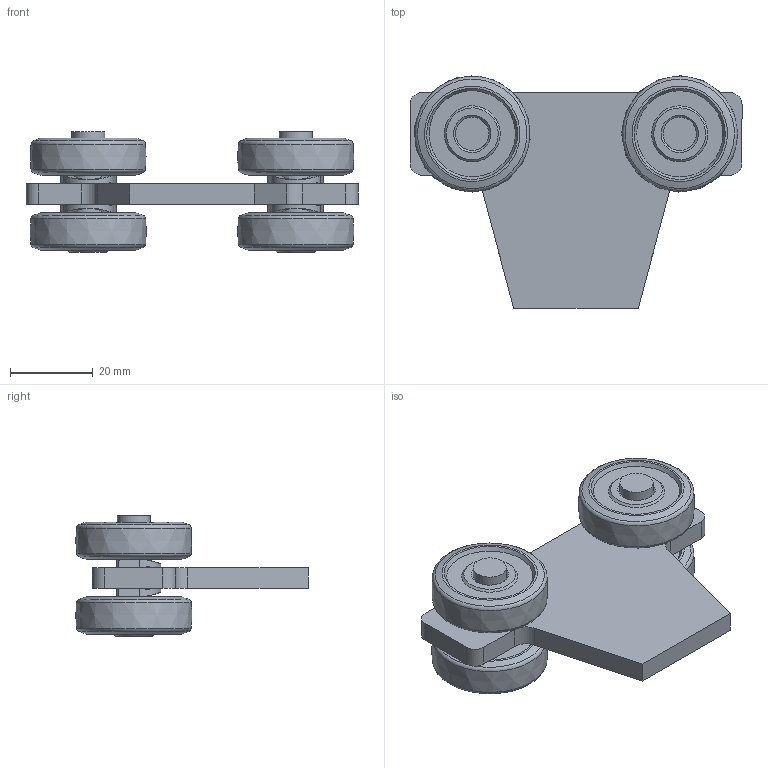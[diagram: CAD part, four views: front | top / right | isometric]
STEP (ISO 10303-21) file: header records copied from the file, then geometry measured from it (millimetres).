
FILE_DESCRIPTION(/* description */ ('Brennteil'),/* implementation_level */ '2;1');
FILE_NAME(/* name */ 'Q:\sge-ma\Produktmanagement-STB\STB\Workspace\stp\010336845.stp',/* time_stamp */ '2016-07-14T12:57:07+02:00',/* author */ ('avschreier'),/* organization */ (''),/* preprocessor_version */ 'ST-DEVELOPER v16.1',/* originating_system */ 'Autodesk Inventor 2016',/* authorisation */ '');
FILE_SCHEMA (('AUTOMOTIVE_DESIGN { 1 0 10303 214 3 1 1 }'));
Length unit declared in the file: millimetre
Products named in the file (5): 000302050; 000303235; 336290010; 000304011; 010336845
Assembly tree (11 placements, depth 2):
  010336845
    000302050
    000303235  x4
    336290010  x4
    000304011  x2
Bounding box: 80 x 56 x 29 mm (x, y, z)
Volume: 34030.3 mm3; surface area: 17705.5 mm2
Topology: 11 solids, 11 shells, 262 faces, 622 edges, 400 vertices
Faces by surface type: plane 156, cylinder 34, cone 34, bspline 28, torus 10
Full cylindrical faces by diameter (mm): 8 x6, 10 x2
Entity records: 3373 total; most frequent: CARTESIAN_POINT 1218, DIRECTION 444, ORIENTED_EDGE 390, EDGE_CURVE 195, AXIS2_PLACEMENT_3D 166, VERTEX_POINT 136, EDGE_LOOP 113, LINE 112
